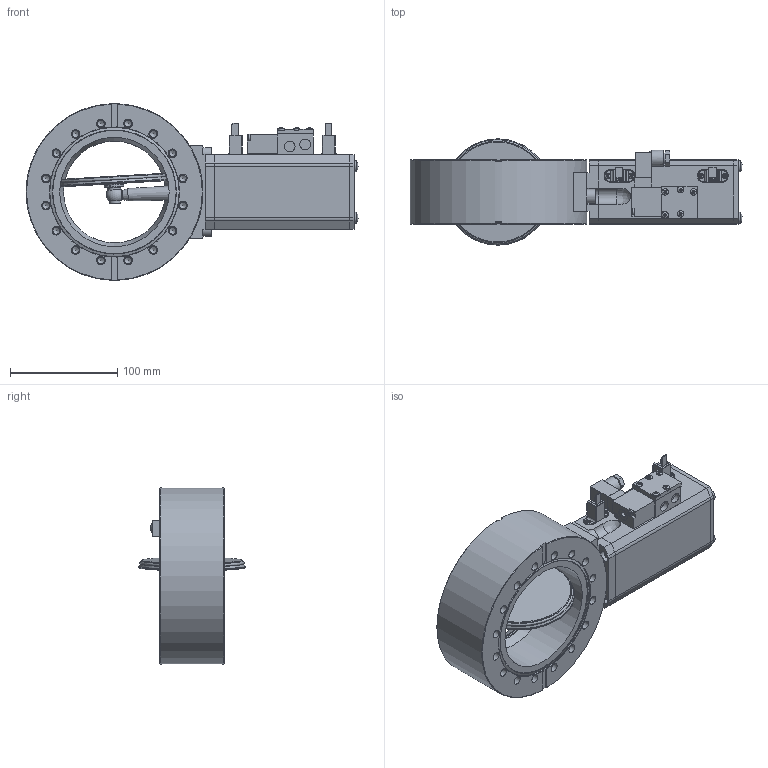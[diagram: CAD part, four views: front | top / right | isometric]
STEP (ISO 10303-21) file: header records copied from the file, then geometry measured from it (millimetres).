
FILE_DESCRIPTION(/* description */ (''),/* implementation_level */ '2;1');
FILE_NAME(/* name */ '1080165250_203.stp',/* time_stamp */ '2010-10-13T08:43:16+02:00',/* author */ (''),/* organization */ (''),/* preprocessor_version */ 'ST-DEVELOPER v11',/* originating_system */ 'SIEMENS UGS NX 6.0',/* authorisation */ '');
FILE_SCHEMA (('CONFIG_CONTROL_DESIGN'));
Length unit declared in the file: millimetre
Products named in the file (33): 227430.1; N-8409-200.3; 92571-01.2; N-6089-308.1; 372421; N-7557-016_1.1; N-7557-018.1; N-7557-016_2.1; N-7557-016_3.1; N-6024-524.1; N-5018-005.1; 227328.2; 227452.1; N-6024-515.1; 227450.1; 365072; 372221; 236571.2; 224223.6; 224374.6; 233106.4; 224315.3; 233137.1; 225582.1; N-6005-474.1; 224828.2; N-6013-443.2; 94800-r1.7_NX-ARRAGMNTKONFIG4; 227117.3; 226699_NX-ARRAGMNTZUSAMMENST1; 372418_MODEL; 372415_NX-ARRAGMNTZUSAMMENST1; 373613
Assembly tree (47 placements, depth 4):
  373613
    N-6013-443.2  x4
    224828.2  x2
    N-6005-474.1
    225582.1  x4
    233137.1
    224315.3
    233106.4
    224374.6
    224223.6
    372415_NX-ARRAGMNTZUSAMMENST1
      372418_MODEL
        372421
        N-6089-308.1
      372221
      365072
    226699_NX-ARRAGMNTZUSAMMENST1  x2
      227450.1
      N-6024-515.1
      227452.1
      227328.2
      227117.3
        92571-01.2
        N-8409-200.3
        227430.1
    94800-r1.7_NX-ARRAGMNTKONFIG4
      N-5018-005.1  x2
      N-6024-524.1  x6
      N-7557-016_3.1
      N-7557-016_2.1
      N-7557-018.1
      N-7557-016_1.1
    236571.2
Bounding box: 309.7 x 99.15 x 164.99 mm (x, y, z)
Volume: 1208399.3 mm3; surface area: 257250.9 mm2
Topology: 55 solids, 55 shells, 1554 faces, 3803 edges, 2483 vertices
Faces by surface type: plane 949, cylinder 417, cone 112, bspline 29, sphere 25, torus 18, extrusion 4
Full cylindrical faces by diameter (mm): 0.4 x4, 0.6 x4, 1.1 x4, 1.2 x2, 2 x6, 2.2 x4, 2.5 x10, 2.7 x2, 2.9 x4, 3 x11, 3.2 x4, 3.3 x4, 3.4 x4, 3.5 x4, 4 x13, 4.4 x12, 4.96 x1, 5 x20, 5.006 x1, 5.4 x8, 6 x12, 6.3 x1, 6.4 x32, 6.66 x2, 6.7 x2, 6.8 x2, 6.9 x1, 7.008 x1, 7.3 x2, 7.5 x5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
Entity records: 34087 total; most frequent: CARTESIAN_POINT 6521, DIRECTION 4896, ORIENTED_EDGE 4246, EDGE_CURVE 2123, AXIS2_PLACEMENT_3D 1887, VERTEX_POINT 1626, EDGE_LOOP 1603, VECTOR 1122
